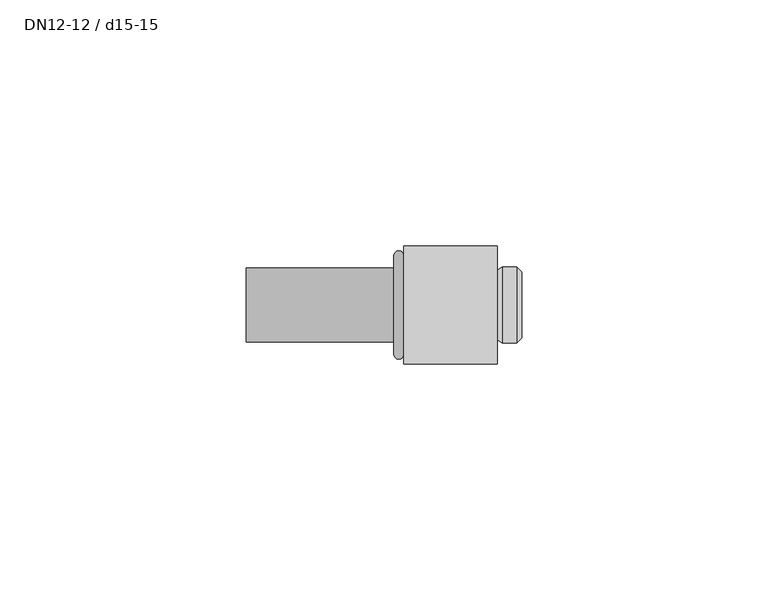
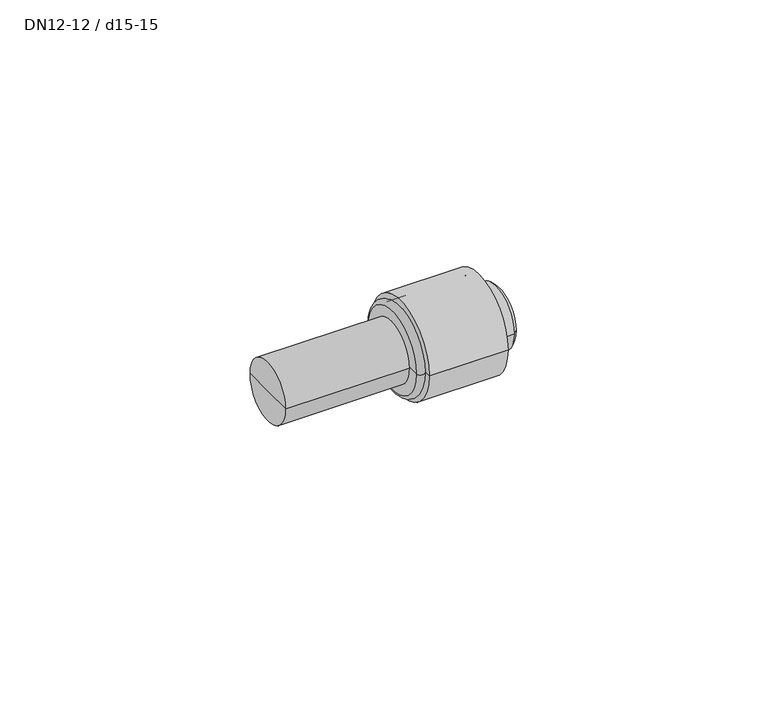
"""IFC4 building model written with IfcOpenShell, lengths in millimetres: pipe fitting geometry, NLRS_50_PIF_UN_Mapress overgang met MasterFix en insteekeinde_geb : DN12-12 / d15-15."""

from ifc_helpers import new_model, si_unit, point, frame, origin, place, context, project, spatial, polyline, circle_curve, ellipse_curve, trimmed, source, transform, mapped, element, save
from ifc_brep_helpers import plane_surface, cylinder_surface, revolved_surface, advanced_brep


def dn12_12_d15_15_efb0e353(model_context):
    return source(origin(), model_context, "Body", "AdvancedBrep", [
        advanced_brep(
        [(28.0, 0.0, 0.0), (28.0, -6.7, 0.0), (28.0, 6.7, 0.0), (2.0, 10.0, 0.0), (2.0, -10.0, 0.0), (2.0, 0.0, 0.0), (4.0, 10.0, 0.0), (4.0, -10.0, 0.0), (4.0, 7.7, 0.0), (4.0, -7.7, 0.0), (12.881966, 7.7, 0.0), (12.881966, -7.7, 0.0), (15.118034, 7.7, 0.0), (15.118034, -7.7, 0.0), (17.9414451, 7.7, 0.0), (17.9414451, -7.7, 0.0), (23.9892433, 7.7, 0.0), (23.9892433, -7.7, 0.0), (27.0, 7.7, 0.0), (27.0, -7.7, 0.0)],
        [
            (0, 1),
            (1, 2, circle_curve(frame((28.0, 0.0, 0.0), z_axis=(1.0, 0.0, 0.0), x_axis=(0.0, -1.0, 0.0)), 6.7)),
            (2, 0),
            (2, 1, circle_curve(frame((28.0, 0.0, 0.0), z_axis=(1.0, 0.0, 0.0), x_axis=(0.0, -1.0, 0.0)), 6.7)),
            (3, 4, circle_curve(frame((2.0, 0.0, 0.0), z_axis=(-1.0, 0.0, 0.0), x_axis=(0.0, -1.0, 0.0)), 10.0)),
            (4, 5),
            (5, 3),
            (4, 3, circle_curve(frame((2.0, 0.0, 0.0), z_axis=(-1.0, 0.0, 0.0), x_axis=(0.0, -1.0, 0.0)), 10.0)),
            (6, 7, circle_curve(frame((4.0, 0.0, 0.0), z_axis=(-1.0, 0.0, 0.0), x_axis=(0.0, -1.0, 0.0)), 10.0)),
            (7, 4, circle_curve(frame((3.0, -10.0, 0.0), z_axis=(0.0, 0.0, -1.0), x_axis=(-1.0, 0.0, 0.0)), 1.0)),
            (3, 6, circle_curve(frame((3.0, 10.0, 0.0), z_axis=(0.0, 0.0, -1.0), x_axis=(-1.0, 0.0, 0.0)), 1.0)),
            (7, 6, circle_curve(frame((4.0, 0.0, 0.0), z_axis=(-1.0, 0.0, 0.0), x_axis=(0.0, -1.0, 0.0)), 10.0)),
            (8, 9, circle_curve(frame((4.0, 0.0, 0.0), z_axis=(-1.0, 0.0, 0.0), x_axis=(0.0, -1.0, 0.0)), 7.7)),
            (9, 7),
            (6, 8),
            (9, 8, circle_curve(frame((4.0, 0.0, 0.0), z_axis=(-1.0, 0.0, 0.0), x_axis=(0.0, -1.0, 0.0)), 7.7)),
            (10, 11, circle_curve(frame((12.881966, 0.0, 0.0), z_axis=(-1.0, 0.0, 0.0), x_axis=(0.0, -1.0, 0.0)), 7.7)),
            (11, 9),
            (8, 10),
            (11, 10, circle_curve(frame((12.881966, 0.0, 0.0), z_axis=(-1.0, 0.0, 0.0), x_axis=(0.0, -1.0, 0.0)), 7.7)),
            (12, 13, circle_curve(frame((15.118034, 0.0, 0.0), z_axis=(-1.0, 0.0, 0.0), x_axis=(0.0, -1.0, 0.0)), 7.7)),
            (13, 11, circle_curve(frame((14.0, -7.1889209, 0.0), z_axis=(0.0, 0.0, -1.0), x_axis=(-1.0, 0.0, 0.0)), 1.2293095)),
            (10, 12, circle_curve(frame((14.0, 7.1889209, 0.0), z_axis=(0.0, 0.0, -1.0), x_axis=(-1.0, 0.0, 0.0)), 1.2293095)),
            (13, 12, circle_curve(frame((15.118034, 0.0, 0.0), z_axis=(-1.0, 0.0, 0.0), x_axis=(0.0, -1.0, 0.0)), 7.7)),
            (14, 15, circle_curve(frame((17.9414451, 0.0, 0.0), z_axis=(-1.0, 0.0, 0.0), x_axis=(0.0, -1.0, 0.0)), 7.7)),
            (15, 13),
            (12, 14),
            (15, 14, circle_curve(frame((17.9414451, 0.0, 0.0), z_axis=(-1.0, 0.0, 0.0), x_axis=(0.0, -1.0, 0.0)), 7.7)),
            (16, 17, circle_curve(frame((23.9892433, 0.0, 0.0), z_axis=(-1.0, 0.0, 0.0), x_axis=(0.0, -1.0, 0.0)), 7.7)),
            (17, 15, circle_curve(frame((20.9653442, -11.7319636, 0.0), z_axis=(0.0, 0.0, 1.0), x_axis=(-1.0, 0.0, 0.0)), 5.0399104)),
            (14, 16, circle_curve(frame((20.9653442, 11.7319636, 0.0), z_axis=(0.0, 0.0, 1.0), x_axis=(-1.0, 0.0, 0.0)), 5.0399104)),
            (17, 16, circle_curve(frame((23.9892433, 0.0, 0.0), z_axis=(-1.0, 0.0, 0.0), x_axis=(0.0, -1.0, 0.0)), 7.7)),
            (18, 19, circle_curve(frame((27.0, 0.0, 0.0), z_axis=(-1.0, 0.0, 0.0), x_axis=(0.0, -1.0, 0.0)), 7.7)),
            (19, 17),
            (16, 18),
            (19, 18, circle_curve(frame((27.0, 0.0, 0.0), z_axis=(-1.0, 0.0, 0.0), x_axis=(0.0, -1.0, 0.0)), 7.7)),
            (1, 19),
            (18, 2),
        ],
        [
            plane_surface(frame((28.0, 0.0, 0.0), z_axis=(1.0, 0.0, 0.0), x_axis=(0.0, -1.0, 0.0))),
            plane_surface(frame((2.0, 0.0, 0.0), z_axis=(-1.0, 0.0, 0.0), x_axis=(0.0, -1.0, 0.0))),
            revolved_surface(trimmed(ellipse_curve(frame((3.0, -10.0, 0.0), z_axis=(0.0, 0.0, 1.0), x_axis=(-1.0, 0.0, 0.0)), 1.0, 1.0), [point((2.0, -10.0, 0.0))], [point((4.0, -10.0, 0.0))], True, "CARTESIAN"), (36.045876, 0.0, 0.0), (1.0, 0.0, 0.0)),
            plane_surface(frame((4.0, 0.0, 0.0), z_axis=(1.0, 0.0, 0.0), x_axis=(0.0, -1.0, 0.0))),
            cylinder_surface(frame((36.045876, 0.0, 0.0), z_axis=(1.0, 0.0, 0.0), x_axis=(0.0, -1.0, 0.0)), 7.7),
            revolved_surface(trimmed(ellipse_curve(frame((14.0, -7.1889209, 0.0), z_axis=(0.0, 0.0, 1.0), x_axis=(-1.0, 0.0, 0.0)), 1.2293095, 1.2293095), [point((12.881966, -7.7, 0.0))], [point((15.118034, -7.7, 0.0))], True, "CARTESIAN"), (36.045876, 0.0, 0.0), (1.0, 0.0, 0.0)),
            revolved_surface(trimmed(ellipse_curve(frame((20.9653442, -11.7319636, 0.0), z_axis=(0.0, 0.0, -1.0), x_axis=(-1.0, 0.0, 0.0)), 5.0399104, 5.0399104), [point((17.9414451, -7.7, 0.0))], [point((23.9892433, -7.7, 0.0))], True, "CARTESIAN"), (36.045876, 0.0, 0.0), (1.0, 0.0, 0.0)),
            revolved_surface(polyline([(27.0, -7.7, 0.0), (28.0, -6.7, 0.0)]), (36.045876, 0.0, 0.0), (1.0, 0.0, 0.0)),
        ],
        [
            (0, [[1, 2, 3]]),
            (0, [[-3, 4, -1]]),
            (1, [[5, 6, 7]]),
            (1, [[8, -7, -6]]),
            (2, [[9, 10, -5, 11]]),
            (2, [[12, -11, -8, -10]]),
            (3, [[13, 14, -9, 15]]),
            (3, [[16, -15, -12, -14]]),
            (4, [[17, 18, -13, 19]]),
            (4, [[20, -19, -16, -18]]),
            (5, [[21, 22, -17, 23]]),
            (5, [[24, -23, -20, -22]]),
            (4, [[25, 26, -21, 27]]),
            (4, [[28, -27, -24, -26]]),
            (6, [[29, 30, -25, 31]]),
            (6, [[32, -31, -28, -30]]),
            (4, [[33, 34, -29, 35]]),
            (4, [[36, -35, -32, -34]]),
            (7, [[-2, 37, -33, 38]]),
            (7, [[-4, -38, -36, -37]]),
        ],
    ),
        advanced_brep(
        [(4.0, 10.0, 0.0), (4.0, -10.0, 0.0), (23.0, -10.0, 0.0), (23.0, 10.0, 0.0), (4.0, 12.0, 0.0), (4.0, -12.0, 0.0), (23.0, 12.0, 0.0), (23.0, -12.0, 0.0)],
        [
            (0, 1, circle_curve(frame((4.0, 0.0, 0.0), z_axis=(-1.0, 0.0, 0.0), x_axis=(0.0, -1.0, 0.0)), 10.0)),
            (1, 2),
            (2, 3, circle_curve(frame((23.0, 0.0, 0.0), z_axis=(1.0, 0.0, 0.0), x_axis=(0.0, -1.0, 0.0)), 10.0)),
            (3, 0),
            (1, 0, circle_curve(frame((4.0, 0.0, 0.0), z_axis=(-1.0, 0.0, 0.0), x_axis=(0.0, -1.0, 0.0)), 10.0)),
            (3, 2, circle_curve(frame((23.0, 0.0, 0.0), z_axis=(1.0, 0.0, 0.0), x_axis=(0.0, -1.0, 0.0)), 10.0)),
            (4, 5, circle_curve(frame((4.0, 0.0, 0.0), z_axis=(-1.0, 0.0, 0.0), x_axis=(0.0, -1.0, 0.0)), 12.0)),
            (5, 1),
            (0, 4),
            (5, 4, circle_curve(frame((4.0, 0.0, 0.0), z_axis=(-1.0, 0.0, 0.0), x_axis=(0.0, -1.0, 0.0)), 12.0)),
            (6, 7, circle_curve(frame((23.0, 0.0, 0.0), z_axis=(-1.0, 0.0, 0.0), x_axis=(0.0, -1.0, 0.0)), 12.0)),
            (7, 5),
            (4, 6),
            (7, 6, circle_curve(frame((23.0, 0.0, 0.0), z_axis=(-1.0, 0.0, 0.0), x_axis=(0.0, -1.0, 0.0)), 12.0)),
            (2, 7),
            (6, 3),
        ],
        [
            revolved_surface(polyline([(23.0, -10.0, 0.0), (4.0, -10.0, 0.0)]), (33.0, 0.0, 0.0), (1.0, 0.0, 0.0)),
            plane_surface(frame((4.0, 0.0, 0.0), z_axis=(-1.0, 0.0, 0.0), x_axis=(0.0, -1.0, 0.0))),
            cylinder_surface(frame((33.0, 0.0, 0.0), z_axis=(1.0, 0.0, 0.0), x_axis=(0.0, -1.0, 0.0)), 12.0),
            plane_surface(frame((23.0, 0.0, 0.0), z_axis=(1.0, 0.0, 0.0), x_axis=(0.0, -1.0, 0.0))),
        ],
        [
            (0, [[1, 2, 3, 4]]),
            (0, [[5, -4, 6, -2]]),
            (1, [[7, 8, -1, 9]]),
            (1, [[10, -9, -5, -8]]),
            (2, [[11, 12, -7, 13]]),
            (2, [[14, -13, -10, -12]]),
            (3, [[-3, 15, -11, 16]]),
            (3, [[-6, -16, -14, -15]]),
        ],
    ),
        advanced_brep(
        [(-28.0, -7.5, 0.0), (-28.0, 7.5, 0.0), (2.0, 7.5, 0.0), (2.0, -7.5, 0.0), (-28.0, 0.0, 0.0), (2.0, 0.0, 0.0)],
        [
            (0, 1, circle_curve(frame((-28.0, 0.0, 0.0), z_axis=(1.0, 0.0, 0.0), x_axis=(0.0, 1.0, 0.0)), 7.5)),
            (1, 2),
            (2, 3, circle_curve(frame((2.0, 0.0, 0.0), z_axis=(-1.0, 0.0, 0.0), x_axis=(0.0, 1.0, 0.0)), 7.5)),
            (3, 0),
            (1, 0, circle_curve(frame((-28.0, 0.0, 0.0), z_axis=(1.0, 0.0, 0.0), x_axis=(0.0, 1.0, 0.0)), 7.5)),
            (3, 2, circle_curve(frame((2.0, 0.0, 0.0), z_axis=(-1.0, 0.0, 0.0), x_axis=(0.0, 1.0, 0.0)), 7.5)),
            (4, 1),
            (0, 4),
            (2, 5),
            (5, 3),
        ],
        [
            cylinder_surface(frame((2003.0, 0.0, 0.0), z_axis=(-1.0, 0.0, 0.0), x_axis=(0.0, 1.0, 0.0)), 7.5),
            plane_surface(frame((-28.0, 0.0, 0.0), z_axis=(-1.0, 0.0, 0.0), x_axis=(0.0, 1.0, 0.0))),
            plane_surface(frame((2.0, 0.0, 0.0), z_axis=(1.0, 0.0, 0.0), x_axis=(0.0, 1.0, 0.0))),
        ],
        [
            (0, [[1, 2, 3, 4]]),
            (0, [[5, -4, 6, -2]]),
            (1, [[7, -1, 8]]),
            (1, [[-8, -5, -7]]),
            (2, [[-3, 9, 10]]),
            (2, [[-6, -10, -9]]),
        ],
    ),
    ])


if __name__ == "__main__":
    model = new_model("IFC4")
    model_context = context("Model", 3, world=origin())
    ifc_project = project(units=[si_unit("LENGTHUNIT", "METRE", prefix="MILLI")], contexts=[model_context])
    site = spatial("IfcSite", under=ifc_project)
    building = spatial("IfcBuilding", under=site)
    placement = place(None, origin())
    dn12_12_d15_15_shape = dn12_12_d15_15_efb0e353(model_context)
    element("IfcPipeFitting", 1, ObjectType="NLRS_50_PIF_UN_Mapress overgang met MasterFix en insteekeinde_geb : DN12-12 / d15-15", at=placement, inside=building, context=model_context, shape_type="MappedRepresentation", body=[
        mapped(dn12_12_d15_15_shape, transform((0.0, 0.0, 0.0), x_axis=(1.0, 0.0, 0.0), y_axis=(0.0, 1.0, 0.0), z_axis=(0.0, 0.0, 1.0))),
    ])
    save(model, "model.ifc")
